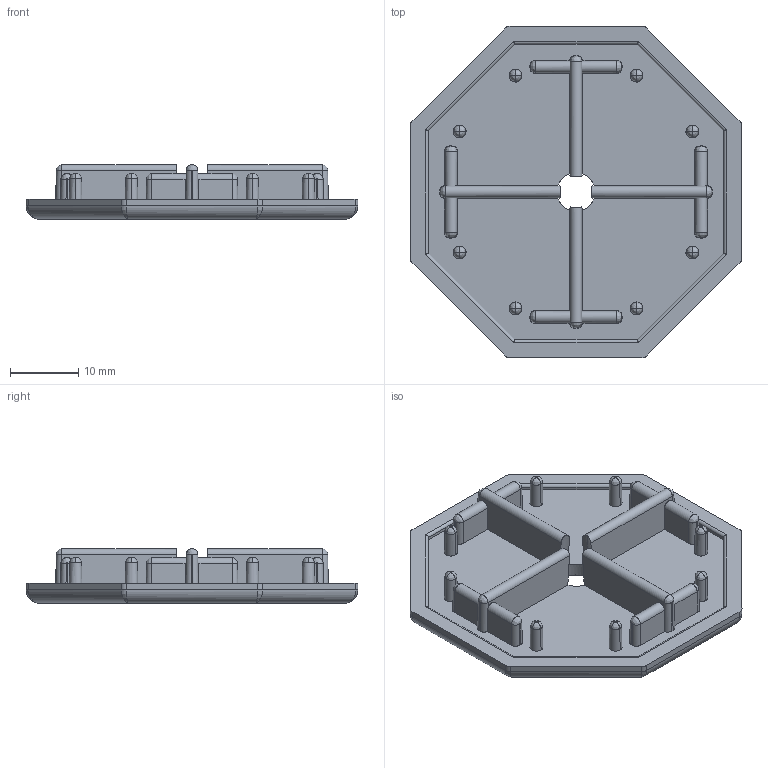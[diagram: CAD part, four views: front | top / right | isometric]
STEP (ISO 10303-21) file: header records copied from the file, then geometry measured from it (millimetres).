
FILE_DESCRIPTION(('CATIA V5 STEP Exchange'),'2;1');
FILE_NAME('\\192.168.2.253\vorns\技术部\03-技术资料\03-产品数模\02、抓具\STP\EGT257.stp','2017-10-18T02:28:16+00:00',('none'),('none'),'CATIA Version 5 Release 21 GA (IN-10)','CATIA V5 STEP AP203','none');
FILE_SCHEMA(('CONFIG_CONTROL_DESIGN'));
Length unit declared in the file: millimetre
Products named in the file (1): EGT257
Bounding box: 48.7 x 48.7 x 8 mm (x, y, z)
Surface area: 5710.2 mm2 (no closed solid volume)
Topology: 0 solids, 177 shells, 193 faces, 900 edges, 884 vertices
Faces by surface type: bspline 115, cylinder 52, revolution 26
Entity records: 12135 total; most frequent: CARTESIAN_POINT 6944, ORIENTED_EDGE 916, EDGE_CURVE 900, VERTEX_POINT 884, B_SPLINE_CURVE_WITH_KNOTS 795, DIRECTION 245, EDGE_LOOP 204, ADVANCED_FACE 193
